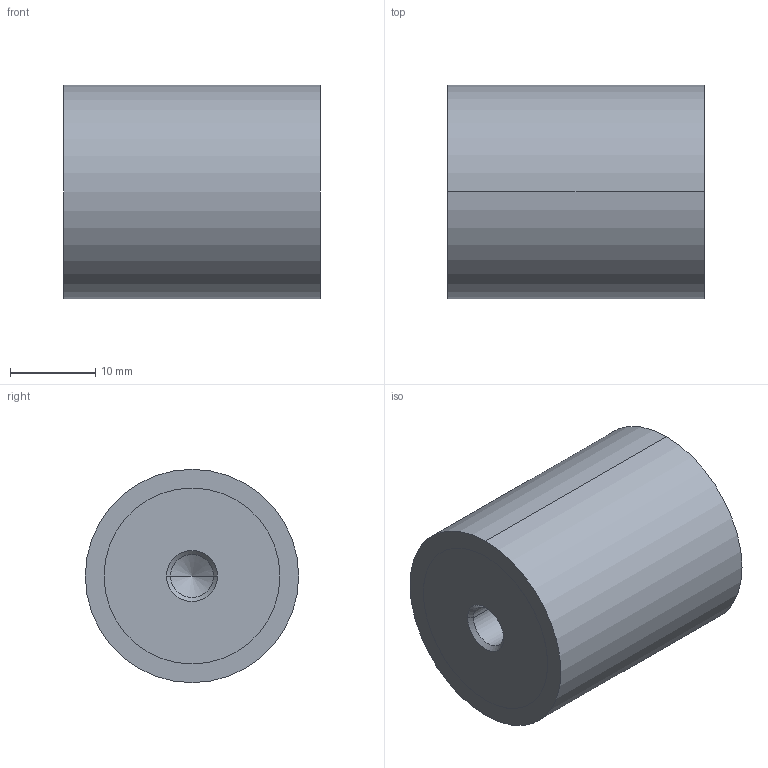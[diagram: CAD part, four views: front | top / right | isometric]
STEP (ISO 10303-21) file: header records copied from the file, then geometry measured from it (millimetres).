
FILE_DESCRIPTION (( 'STEP AP214' ), '1' );
FILE_NAME ('451-25-30-M6-EE-55.step', '2020-03-05T09:11:50', ( '' ), ( '' ), 'SwSTEP 2.0', 'SolidWorks 2019', '' );
FILE_SCHEMA (( 'AUTOMOTIVE_DESIGN' ));
Length unit declared in the file: millimetre
Products named in the file (1): 451-25-30-M6-EE-55
Bounding box: 30 x 25 x 25 mm (x, y, z)
Volume: 14460.6 mm3; surface area: 3525.6 mm2
Topology: 1 solids, 1 shells, 22 faces, 46 edges, 26 vertices
Faces by surface type: cylinder 10, cone 8, plane 4
Entity records: 684 total; most frequent: DIRECTION 112, CARTESIAN_POINT 91, ORIENTED_EDGE 84, AXIS2_PLACEMENT_3D 47, EDGE_CURVE 42, EDGE_LOOP 26, VERTEX_POINT 26, CIRCLE 24
